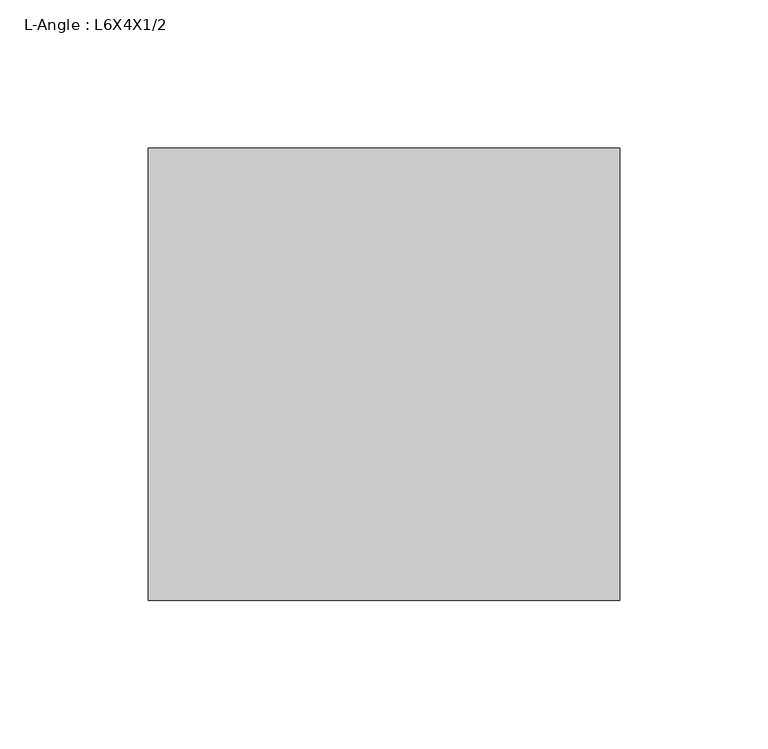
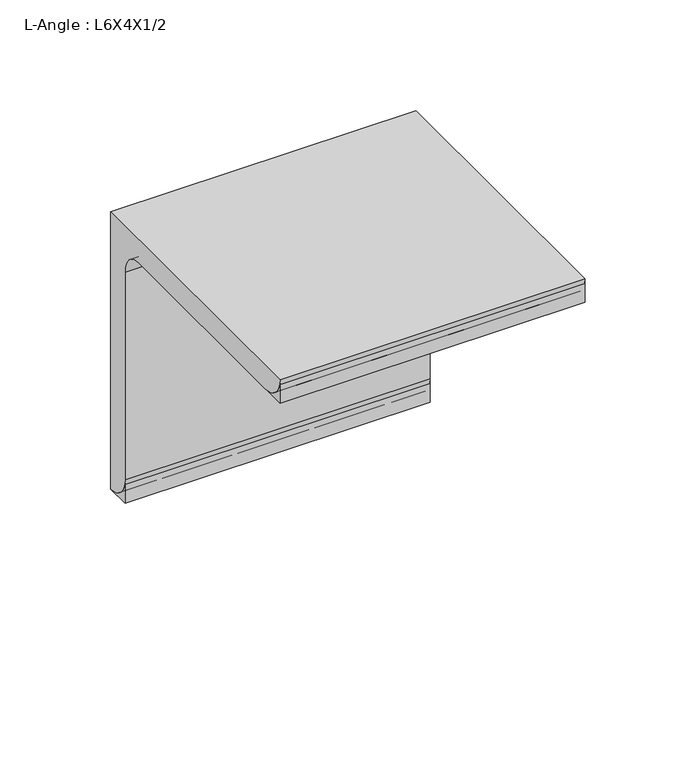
"""IFC4 building model written with IfcOpenShell, lengths in millimetres: beam geometry, L-Angle : L6X4X1/2."""

from ifc_helpers import new_model, si_unit, point, frame, frame_2d, origin, place, context, project, spatial, polyline, circle_curve, trimmed, segment, composite_curve, outline, extrude, source, transform, mapped, element, save


def l_angle_l6x4x1_2_f9bd59cc(model_context):
    return source(origin(), model_context, "Body", "SweptSolid", [
        extrude(outline(composite_curve([segment(polyline([(24.9039062, 50.3039062), (24.9039062, -102.0960938)]), True, "CONTINUOUS"), segment(trimmed(circle_curve(frame_2d((24.9039062, -89.3960938)), 12.7), [point((24.9039062, -102.0960938))], [point((12.2039062, -89.3960938))], False, "CARTESIAN"), True, "CONTINUOUS"), segment(polyline([(12.2039062, -89.3960938), (12.2039062, 24.9039062)]), True, "CONTINUOUS"), segment(trimmed(circle_curve(frame_2d((-0.4960938, 24.9039062)), 12.7), [point((12.2039062, 24.9039062))], [point((-0.4960938, 37.6039062))], True, "CARTESIAN"), True, "CONTINUOUS"), segment(polyline([(-0.4960938, 37.6039062), (-114.7960938, 37.6039062)]), True, "CONTINUOUS"), segment(trimmed(circle_curve(frame_2d((-114.7960938, 50.3039062)), 12.7), [point((-114.7960938, 37.6039062))], [point((-127.4960938, 50.3039062))], False, "CARTESIAN"), True, "CONTINUOUS"), segment(polyline([(-127.4960938, 50.3039062), (24.9039062, 50.3039062)]), True, "CONTINUOUS")], self_intersect=False)), frame((-79.375, 0.0, 0.0), z_axis=(1.0, 0.0, 0.0), x_axis=(0.0, 1.0, 0.0)), (0.0, 0.0, 1.0), 158.75),
        extrude(outline(polyline([(24.9039062, 50.3039062), (24.9039062, -102.0960938), (12.2039062, -102.0960938), (12.2039062, 37.6039062), (-127.4960938, 37.6039062), (-127.4960938, 50.3039062), (24.9039062, 50.3039062)])), frame((-79.375, 0.0, 0.0), z_axis=(1.0, 0.0, 0.0), x_axis=(0.0, 1.0, 0.0)), (0.0, 0.0, 1.0), 158.75),
    ])


if __name__ == "__main__":
    model = new_model("IFC4")
    model_context = context("Model", 3, world=origin())
    ifc_project = project(units=[si_unit("LENGTHUNIT", "METRE", prefix="MILLI")], contexts=[model_context])
    site = spatial("IfcSite", under=ifc_project)
    building = spatial("IfcBuilding", under=site)
    placement = place(None, origin())
    l_angle_l6x4x1_2_shape = l_angle_l6x4x1_2_f9bd59cc(model_context)
    element("IfcBeam", 1, ObjectType="L-Angle : L6X4X1/2", at=placement, inside=building, context=model_context, shape_type="MappedRepresentation", body=[
        mapped(l_angle_l6x4x1_2_shape, transform((0.0, 0.0, 0.0), x_axis=(1.0, 0.0, 0.0), y_axis=(0.0, 1.0, 0.0), z_axis=(0.0, 0.0, 1.0))),
    ])
    save(model, "model.ifc")
